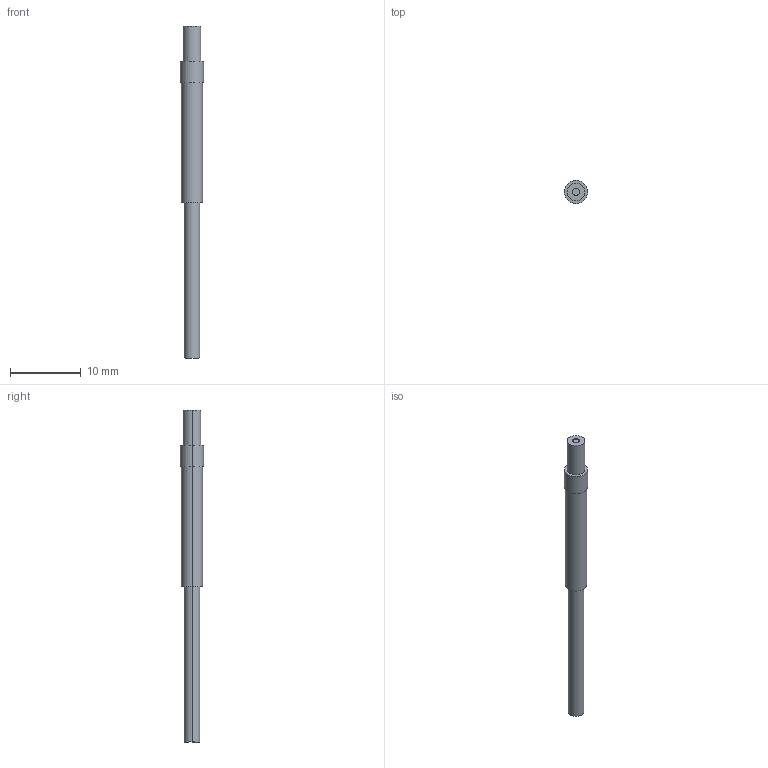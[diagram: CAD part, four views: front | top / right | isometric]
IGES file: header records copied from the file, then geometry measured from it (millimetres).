
Start section: SolidWorks IGES FILE using analytic representation for surfaces
Global section: file name: \\intra-srv04\開発データ\CAD_Data\CAD委員会\3D電子ｶﾀﾛｸﾞ\製品カタログ（新）\0_IGES\FT-SFM2.IGS,41HSolidWorks 2004; native system: by SolidWorks Corporation; preprocessor: Version 5.3; author: mf1158; date: 050908.112310; units: millimetre
Bounding box: 3.3 x 3.3 x 47 mm (x, y, z)
Volume: 253.9 mm3; surface area: 400.1 mm2
Topology: 1 solids, 1 shells, 16 faces, 30 edges, 20 vertices
Faces by surface type: revolution 10, plane 6
